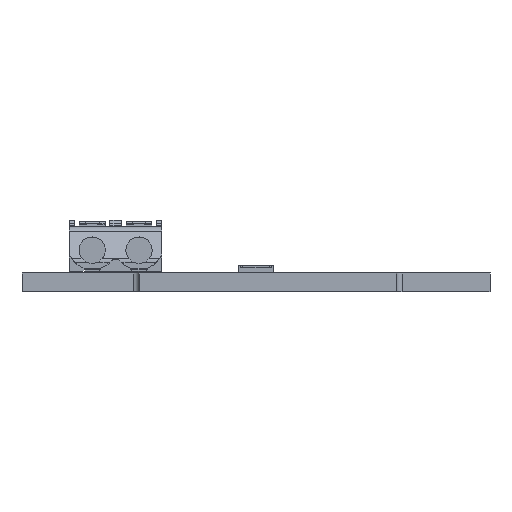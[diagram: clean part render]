
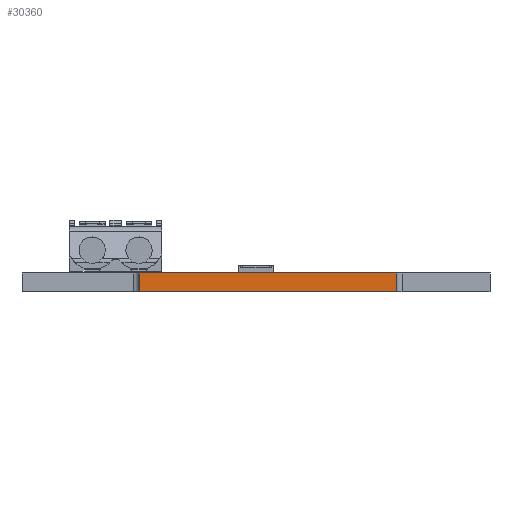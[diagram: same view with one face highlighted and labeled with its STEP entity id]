
A CAD part, left-side view. The second image highlights one B-rep face of the part: STEP entity #30360.
In plain terms, the highlighted planar face has unit normal (-1, 0, 0).
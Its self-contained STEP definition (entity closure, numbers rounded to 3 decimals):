
#3355=FACE_OUTER_BOUND('',#5004,.T.);
#5004=EDGE_LOOP('',(#25582,#25583,#25584,#25585));
#7991=LINE('',#49220,#11054);
#8147=LINE('',#49712,#11210);
#8149=LINE('',#49715,#11212);
#8150=LINE('',#49716,#11213);
#11054=VECTOR('',#40674,10.);
#11210=VECTOR('',#41174,10.);
#11212=VECTOR('',#41178,10.);
#11213=VECTOR('',#41179,10.);
#13725=VERTEX_POINT('',#49217);
#13726=VERTEX_POINT('',#49219);
#13889=VERTEX_POINT('',#49709);
#13890=VERTEX_POINT('',#49711);
#17763=EDGE_CURVE('',#13725,#13726,#7991,.T.);
#18009=EDGE_CURVE('',#13890,#13889,#8147,.T.);
#18011=EDGE_CURVE('',#13725,#13890,#8149,.T.);
#18012=EDGE_CURVE('',#13726,#13889,#8150,.T.);
#25582=ORIENTED_EDGE('',*,*,#18011,.T.);
#25583=ORIENTED_EDGE('',*,*,#18009,.T.);
#25584=ORIENTED_EDGE('',*,*,#18012,.F.);
#25585=ORIENTED_EDGE('',*,*,#17763,.F.);
#27261=PLANE('',#32953);
#30360=ADVANCED_FACE('',(#3355),#27261,.T.);
#32953=AXIS2_PLACEMENT_3D('',#49714,#41176,#41177);
#40674=DIRECTION('',(0.,0.,-1.));
#41174=DIRECTION('',(0.,0.,-1.));
#41176=DIRECTION('center_axis',(-1.,0.,0.));
#41177=DIRECTION('ref_axis',(0.,1.,0.));
#41178=DIRECTION('',(0.,1.,0.));
#41179=DIRECTION('',(0.,1.,0.));
#49217=CARTESIAN_POINT('',(0.,8.,0.));
#49219=CARTESIAN_POINT('',(0.,8.,-1.6));
#49220=CARTESIAN_POINT('',(0.,8.,0.));
#49709=CARTESIAN_POINT('',(0.,30.,-1.6));
#49711=CARTESIAN_POINT('',(0.,30.,0.));
#49712=CARTESIAN_POINT('',(0.,30.,0.));
#49714=CARTESIAN_POINT('Origin',(0.,8.,0.));
#49715=CARTESIAN_POINT('',(0.,8.,0.));
#49716=CARTESIAN_POINT('',(0.,8.,-1.6));
